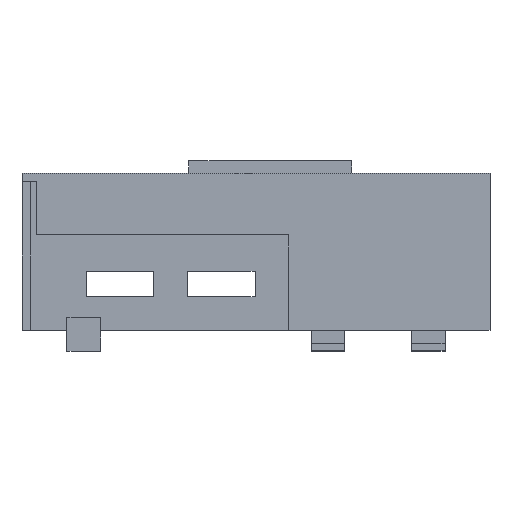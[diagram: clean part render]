
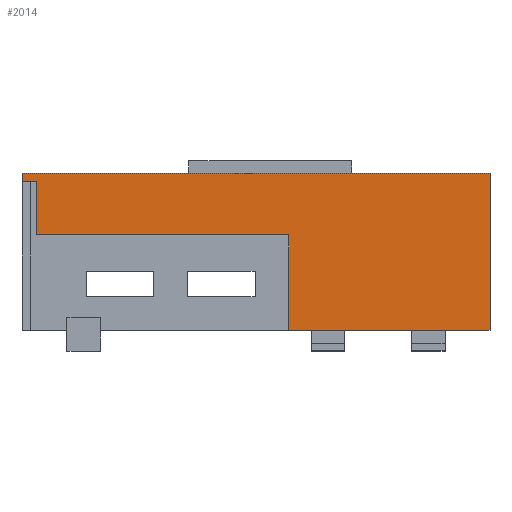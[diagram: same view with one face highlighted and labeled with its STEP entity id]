
A CAD part, front view. The second image highlights one B-rep face of the part: STEP entity #2014.
In plain terms, the highlighted planar face has unit normal (0, -1, 0).
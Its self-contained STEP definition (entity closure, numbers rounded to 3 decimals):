
#22 = VERTEX_POINT('',#23);
#23 = CARTESIAN_POINT('',(-63.5,-103.,201.));
#32 = PLANE('',#33);
#33 = AXIS2_PLACEMENT_3D('',#34,#35,#36);
#34 = CARTESIAN_POINT('',(-63.5,0.,187.));
#35 = DIRECTION('',(-1.,-0.,-0.));
#36 = DIRECTION('',(0.,0.,-1.));
#44 = PLANE('',#45);
#45 = AXIS2_PLACEMENT_3D('',#46,#47,#48);
#46 = CARTESIAN_POINT('',(-63.5,-103.,201.));
#47 = DIRECTION('',(0.,0.,1.));
#48 = DIRECTION('',(1.,0.,0.));
#139 = VERTEX_POINT('',#140);
#140 = CARTESIAN_POINT('',(-63.5,-103.,199.5));
#153 = PLANE('',#154);
#154 = AXIS2_PLACEMENT_3D('',#155,#156,#157);
#155 = CARTESIAN_POINT('',(-21.8,-0.775,199.5));
#156 = DIRECTION('',(-0.,-0.,-1.));
#157 = DIRECTION('',(-1.,0.,0.));
#165 = EDGE_CURVE('',#139,#22,#166,.T.);
#166 = SURFACE_CURVE('',#167,(#171,#178),.PCURVE_S1.);
#167 = LINE('',#168,#169);
#168 = CARTESIAN_POINT('',(-63.5,-103.,173.));
#169 = VECTOR('',#170,1.);
#170 = DIRECTION('',(0.,0.,1.));
#171 = PCURVE('',#32,#172);
#172 = DEFINITIONAL_REPRESENTATION('',(#173),#177);
#173 = LINE('',#174,#175);
#174 = CARTESIAN_POINT('',(14.,103.));
#175 = VECTOR('',#176,1.);
#176 = DIRECTION('',(-1.,0.));
#177 = ( GEOMETRIC_REPRESENTATION_CONTEXT(2) 
PARAMETRIC_REPRESENTATION_CONTEXT() REPRESENTATION_CONTEXT('2D SPACE',''
  ) );
#178 = PCURVE('',#179,#184);
#179 = PLANE('',#180);
#180 = AXIS2_PLACEMENT_3D('',#181,#182,#183);
#181 = CARTESIAN_POINT('',(-21.825,-103.,187.));
#182 = DIRECTION('',(-0.,-1.,-0.));
#183 = DIRECTION('',(0.,0.,-1.));
#184 = DEFINITIONAL_REPRESENTATION('',(#185),#189);
#185 = LINE('',#186,#187);
#186 = CARTESIAN_POINT('',(14.,-41.675));
#187 = VECTOR('',#188,1.);
#188 = DIRECTION('',(-1.,0.));
#189 = ( GEOMETRIC_REPRESENTATION_CONTEXT(2) 
PARAMETRIC_REPRESENTATION_CONTEXT() REPRESENTATION_CONTEXT('2D SPACE',''
  ) );
#195 = EDGE_CURVE('',#22,#196,#198,.T.);
#196 = VERTEX_POINT('',#197);
#197 = CARTESIAN_POINT('',(19.85,-103.,201.));
#198 = SURFACE_CURVE('',#199,(#203,#210),.PCURVE_S1.);
#199 = LINE('',#200,#201);
#200 = CARTESIAN_POINT('',(-63.5,-103.,201.));
#201 = VECTOR('',#202,1.);
#202 = DIRECTION('',(1.,0.,0.));
#203 = PCURVE('',#44,#204);
#204 = DEFINITIONAL_REPRESENTATION('',(#205),#209);
#205 = LINE('',#206,#207);
#206 = CARTESIAN_POINT('',(0.,0.));
#207 = VECTOR('',#208,1.);
#208 = DIRECTION('',(1.,0.));
#209 = ( GEOMETRIC_REPRESENTATION_CONTEXT(2) 
PARAMETRIC_REPRESENTATION_CONTEXT() REPRESENTATION_CONTEXT('2D SPACE',''
  ) );
#210 = PCURVE('',#179,#211);
#211 = DEFINITIONAL_REPRESENTATION('',(#212),#216);
#212 = LINE('',#213,#214);
#213 = CARTESIAN_POINT('',(-14.,-41.675));
#214 = VECTOR('',#215,1.);
#215 = DIRECTION('',(0.,1.));
#216 = ( GEOMETRIC_REPRESENTATION_CONTEXT(2) 
PARAMETRIC_REPRESENTATION_CONTEXT() REPRESENTATION_CONTEXT('2D SPACE',''
  ) );
#234 = PLANE('',#235);
#235 = AXIS2_PLACEMENT_3D('',#236,#237,#238);
#236 = CARTESIAN_POINT('',(19.85,0.,197.249));
#237 = DIRECTION('',(1.,0.,0.));
#238 = DIRECTION('',(0.,0.,1.));
#2014 = ADVANCED_FACE('',(#2015),#179,.T.);
#2015 = FACE_BOUND('',#2016,.T.);
#2016 = EDGE_LOOP('',(#2017,#2018,#2040,#2066,#2092,#2118,#2146,#2167));
#2017 = ORIENTED_EDGE('',*,*,#165,.F.);
#2018 = ORIENTED_EDGE('',*,*,#2019,.F.);
#2019 = EDGE_CURVE('',#2020,#139,#2022,.T.);
#2020 = VERTEX_POINT('',#2021);
#2021 = CARTESIAN_POINT('',(-61.,-103.,199.5));
#2022 = SURFACE_CURVE('',#2023,(#2027,#2033),.PCURVE_S1.);
#2023 = LINE('',#2024,#2025);
#2024 = CARTESIAN_POINT('',(-43.413,-103.,199.5));
#2025 = VECTOR('',#2026,1.);
#2026 = DIRECTION('',(-1.,0.,0.));
#2027 = PCURVE('',#179,#2028);
#2028 = DEFINITIONAL_REPRESENTATION('',(#2029),#2032);
#2029 = B_SPLINE_CURVE_WITH_KNOTS('',1,(#2030,#2031),.UNSPECIFIED.,.F.,
  .F.,(2,2),(17.588,20.088),.PIECEWISE_BEZIER_KNOTS.);
#2030 = CARTESIAN_POINT('',(-12.5,-39.175));
#2031 = CARTESIAN_POINT('',(-12.5,-41.675));
#2032 = ( GEOMETRIC_REPRESENTATION_CONTEXT(2) 
PARAMETRIC_REPRESENTATION_CONTEXT() REPRESENTATION_CONTEXT('2D SPACE',''
  ) );
#2033 = PCURVE('',#153,#2034);
#2034 = DEFINITIONAL_REPRESENTATION('',(#2035),#2039);
#2035 = LINE('',#2036,#2037);
#2036 = CARTESIAN_POINT('',(21.613,-102.225));
#2037 = VECTOR('',#2038,1.);
#2038 = DIRECTION('',(1.,0.));
#2039 = ( GEOMETRIC_REPRESENTATION_CONTEXT(2) 
PARAMETRIC_REPRESENTATION_CONTEXT() REPRESENTATION_CONTEXT('2D SPACE',''
  ) );
#2040 = ORIENTED_EDGE('',*,*,#2041,.F.);
#2041 = EDGE_CURVE('',#2042,#2020,#2044,.T.);
#2042 = VERTEX_POINT('',#2043);
#2043 = CARTESIAN_POINT('',(-61.,-103.,190.));
#2044 = SURFACE_CURVE('',#2045,(#2049,#2055),.PCURVE_S1.);
#2045 = LINE('',#2046,#2047);
#2046 = CARTESIAN_POINT('',(-61.,-103.,179.94));
#2047 = VECTOR('',#2048,1.);
#2048 = DIRECTION('',(0.,0.,1.));
#2049 = PCURVE('',#179,#2050);
#2050 = DEFINITIONAL_REPRESENTATION('',(#2051),#2054);
#2051 = B_SPLINE_CURVE_WITH_KNOTS('',1,(#2052,#2053),.UNSPECIFIED.,.F.,
  .F.,(2,2),(-6.94,19.56),.PIECEWISE_BEZIER_KNOTS.);
#2052 = CARTESIAN_POINT('',(14.,-39.175));
#2053 = CARTESIAN_POINT('',(-12.5,-39.175));
#2054 = ( GEOMETRIC_REPRESENTATION_CONTEXT(2) 
PARAMETRIC_REPRESENTATION_CONTEXT() REPRESENTATION_CONTEXT('2D SPACE',''
  ) );
#2055 = PCURVE('',#2056,#2061);
#2056 = PLANE('',#2057);
#2057 = AXIS2_PLACEMENT_3D('',#2058,#2059,#2060);
#2058 = CARTESIAN_POINT('',(-61.,-106.,172.88));
#2059 = DIRECTION('',(1.,0.,0.));
#2060 = DIRECTION('',(0.,0.,1.));
#2061 = DEFINITIONAL_REPRESENTATION('',(#2062),#2065);
#2062 = B_SPLINE_CURVE_WITH_KNOTS('',1,(#2063,#2064),.UNSPECIFIED.,.F.,
  .F.,(2,2),(-6.94,19.56),.PIECEWISE_BEZIER_KNOTS.);
#2063 = CARTESIAN_POINT('',(0.12,-3.));
#2064 = CARTESIAN_POINT('',(26.62,-3.));
#2065 = ( GEOMETRIC_REPRESENTATION_CONTEXT(2) 
PARAMETRIC_REPRESENTATION_CONTEXT() REPRESENTATION_CONTEXT('2D SPACE',''
  ) );
#2066 = ORIENTED_EDGE('',*,*,#2067,.F.);
#2067 = EDGE_CURVE('',#2068,#2042,#2070,.T.);
#2068 = VERTEX_POINT('',#2069);
#2069 = CARTESIAN_POINT('',(-16.,-103.,190.));
#2070 = SURFACE_CURVE('',#2071,(#2075,#2081),.PCURVE_S1.);
#2071 = LINE('',#2072,#2073);
#2072 = CARTESIAN_POINT('',(-43.413,-103.,190.));
#2073 = VECTOR('',#2074,1.);
#2074 = DIRECTION('',(-1.,0.,0.));
#2075 = PCURVE('',#179,#2076);
#2076 = DEFINITIONAL_REPRESENTATION('',(#2077),#2080);
#2077 = B_SPLINE_CURVE_WITH_KNOTS('',1,(#2078,#2079),.UNSPECIFIED.,.F.,
  .F.,(2,2),(-27.413,20.088),.PIECEWISE_BEZIER_KNOTS.);
#2078 = CARTESIAN_POINT('',(-3.,5.825));
#2079 = CARTESIAN_POINT('',(-3.,-41.675));
#2080 = ( GEOMETRIC_REPRESENTATION_CONTEXT(2) 
PARAMETRIC_REPRESENTATION_CONTEXT() REPRESENTATION_CONTEXT('2D SPACE',''
  ) );
#2081 = PCURVE('',#2082,#2087);
#2082 = PLANE('',#2083);
#2083 = AXIS2_PLACEMENT_3D('',#2084,#2085,#2086);
#2084 = CARTESIAN_POINT('',(-65.,-104.,190.));
#2085 = DIRECTION('',(0.,0.,1.));
#2086 = DIRECTION('',(1.,0.,0.));
#2087 = DEFINITIONAL_REPRESENTATION('',(#2088),#2091);
#2088 = B_SPLINE_CURVE_WITH_KNOTS('',1,(#2089,#2090),.UNSPECIFIED.,.F.,
  .F.,(2,2),(-27.413,20.088),.PIECEWISE_BEZIER_KNOTS.);
#2089 = CARTESIAN_POINT('',(49.,1.));
#2090 = CARTESIAN_POINT('',(1.5,1.));
#2091 = ( GEOMETRIC_REPRESENTATION_CONTEXT(2) 
PARAMETRIC_REPRESENTATION_CONTEXT() REPRESENTATION_CONTEXT('2D SPACE',''
  ) );
#2092 = ORIENTED_EDGE('',*,*,#2093,.F.);
#2093 = EDGE_CURVE('',#2094,#2068,#2096,.T.);
#2094 = VERTEX_POINT('',#2095);
#2095 = CARTESIAN_POINT('',(-16.,-103.,173.));
#2096 = SURFACE_CURVE('',#2097,(#2101,#2107),.PCURVE_S1.);
#2097 = LINE('',#2098,#2099);
#2098 = CARTESIAN_POINT('',(-16.,-103.,179.9));
#2099 = VECTOR('',#2100,1.);
#2100 = DIRECTION('',(0.,0.,1.));
#2101 = PCURVE('',#179,#2102);
#2102 = DEFINITIONAL_REPRESENTATION('',(#2103),#2106);
#2103 = B_SPLINE_CURVE_WITH_KNOTS('',1,(#2104,#2105),.UNSPECIFIED.,.F.,
  .F.,(2,2),(-6.9,10.1),.PIECEWISE_BEZIER_KNOTS.);
#2104 = CARTESIAN_POINT('',(14.,5.825));
#2105 = CARTESIAN_POINT('',(-3.,5.825));
#2106 = ( GEOMETRIC_REPRESENTATION_CONTEXT(2) 
PARAMETRIC_REPRESENTATION_CONTEXT() REPRESENTATION_CONTEXT('2D SPACE',''
  ) );
#2107 = PCURVE('',#2108,#2113);
#2108 = PLANE('',#2109);
#2109 = AXIS2_PLACEMENT_3D('',#2110,#2111,#2112);
#2110 = CARTESIAN_POINT('',(-16.,-104.,172.8));
#2111 = DIRECTION('',(1.,0.,0.));
#2112 = DIRECTION('',(0.,0.,1.));
#2113 = DEFINITIONAL_REPRESENTATION('',(#2114),#2117);
#2114 = B_SPLINE_CURVE_WITH_KNOTS('',1,(#2115,#2116),.UNSPECIFIED.,.F.,
  .F.,(2,2),(-6.9,10.1),.PIECEWISE_BEZIER_KNOTS.);
#2115 = CARTESIAN_POINT('',(0.2,-1.));
#2116 = CARTESIAN_POINT('',(17.2,-1.));
#2117 = ( GEOMETRIC_REPRESENTATION_CONTEXT(2) 
PARAMETRIC_REPRESENTATION_CONTEXT() REPRESENTATION_CONTEXT('2D SPACE',''
  ) );
#2118 = ORIENTED_EDGE('',*,*,#2119,.T.);
#2119 = EDGE_CURVE('',#2094,#2120,#2122,.T.);
#2120 = VERTEX_POINT('',#2121);
#2121 = CARTESIAN_POINT('',(19.85,-103.,173.));
#2122 = SURFACE_CURVE('',#2123,(#2127,#2134),.PCURVE_S1.);
#2123 = LINE('',#2124,#2125);
#2124 = CARTESIAN_POINT('',(-63.5,-103.,173.));
#2125 = VECTOR('',#2126,1.);
#2126 = DIRECTION('',(1.,0.,0.));
#2127 = PCURVE('',#179,#2128);
#2128 = DEFINITIONAL_REPRESENTATION('',(#2129),#2133);
#2129 = LINE('',#2130,#2131);
#2130 = CARTESIAN_POINT('',(14.,-41.675));
#2131 = VECTOR('',#2132,1.);
#2132 = DIRECTION('',(0.,1.));
#2133 = ( GEOMETRIC_REPRESENTATION_CONTEXT(2) 
PARAMETRIC_REPRESENTATION_CONTEXT() REPRESENTATION_CONTEXT('2D SPACE',''
  ) );
#2134 = PCURVE('',#2135,#2140);
#2135 = PLANE('',#2136);
#2136 = AXIS2_PLACEMENT_3D('',#2137,#2138,#2139);
#2137 = CARTESIAN_POINT('',(-44.04,0.,173.));
#2138 = DIRECTION('',(-0.,-0.,-1.));
#2139 = DIRECTION('',(-1.,0.,0.));
#2140 = DEFINITIONAL_REPRESENTATION('',(#2141),#2145);
#2141 = LINE('',#2142,#2143);
#2142 = CARTESIAN_POINT('',(19.46,-103.));
#2143 = VECTOR('',#2144,1.);
#2144 = DIRECTION('',(-1.,0.));
#2145 = ( GEOMETRIC_REPRESENTATION_CONTEXT(2) 
PARAMETRIC_REPRESENTATION_CONTEXT() REPRESENTATION_CONTEXT('2D SPACE',''
  ) );
#2146 = ORIENTED_EDGE('',*,*,#2147,.T.);
#2147 = EDGE_CURVE('',#2120,#196,#2148,.T.);
#2148 = SURFACE_CURVE('',#2149,(#2153,#2160),.PCURVE_S1.);
#2149 = LINE('',#2150,#2151);
#2150 = CARTESIAN_POINT('',(19.85,-103.,173.));
#2151 = VECTOR('',#2152,1.);
#2152 = DIRECTION('',(0.,0.,1.));
#2153 = PCURVE('',#179,#2154);
#2154 = DEFINITIONAL_REPRESENTATION('',(#2155),#2159);
#2155 = LINE('',#2156,#2157);
#2156 = CARTESIAN_POINT('',(14.,41.675));
#2157 = VECTOR('',#2158,1.);
#2158 = DIRECTION('',(-1.,0.));
#2159 = ( GEOMETRIC_REPRESENTATION_CONTEXT(2) 
PARAMETRIC_REPRESENTATION_CONTEXT() REPRESENTATION_CONTEXT('2D SPACE',''
  ) );
#2160 = PCURVE('',#234,#2161);
#2161 = DEFINITIONAL_REPRESENTATION('',(#2162),#2166);
#2162 = LINE('',#2163,#2164);
#2163 = CARTESIAN_POINT('',(-24.249,103.));
#2164 = VECTOR('',#2165,1.);
#2165 = DIRECTION('',(1.,0.));
#2166 = ( GEOMETRIC_REPRESENTATION_CONTEXT(2) 
PARAMETRIC_REPRESENTATION_CONTEXT() REPRESENTATION_CONTEXT('2D SPACE',''
  ) );
#2167 = ORIENTED_EDGE('',*,*,#195,.F.);
